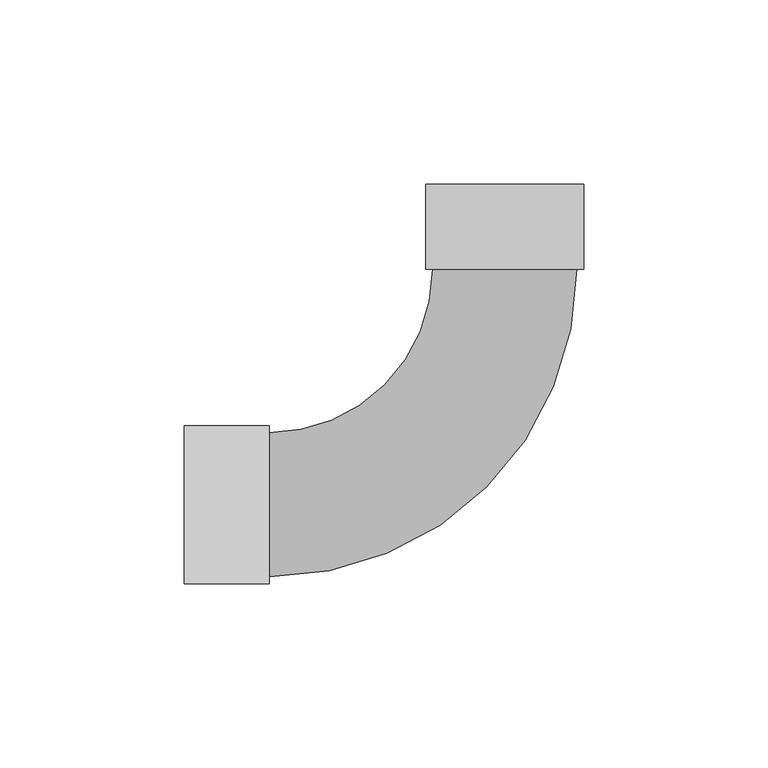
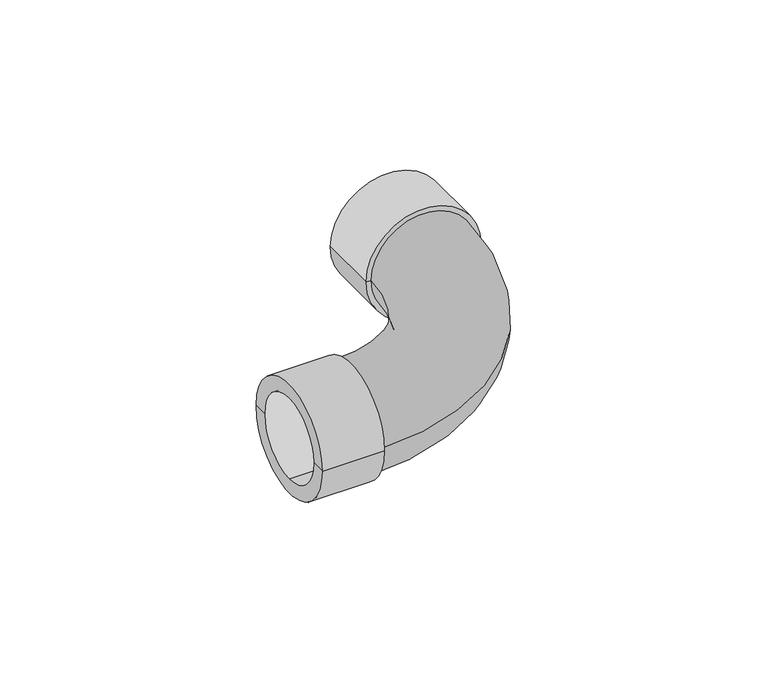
"""IFC4 building model written with IfcOpenShell, lengths in millimetres: pipe fitting geometry, PipeFitting_HTA_CPVC_Bends90° : 32mm x 90°."""

from ifc_helpers import new_model, si_unit, point, frame, origin, place, context, project, spatial, polyline, circle_curve, ellipse_curve, trimmed, source, transform, mapped, element, save
from ifc_brep_helpers import plane_surface, cylinder_surface, revolved_surface, advanced_brep


def pipe_fitting_430ba046(model_context):
    return source(origin(), model_context, "Body", "AdvancedBrep", [
        advanced_brep(
        [(-64.0, -19.6, 0.0), (19.6, 64.0, 0.0), (-19.6, 64.0, 0.0), (-64.0, 19.6, 0.0), (-64.0, 21.5, 0.0), (-64.0, -21.5, 0.0), (-87.1, -21.5, 0.0), (-87.1, 21.5, 0.0), (-87.1, -16.0, 0.0), (-87.1, 0.0, -16.0), (-87.1, 16.0, 0.0), (-87.1, 0.0, 16.0), (-21.5, 64.0, 0.0), (21.5, 64.0, 0.0), (21.5, 87.1, 0.0), (-21.5, 87.1, 0.0), (-16.0, 87.1, 0.0), (0.0, 87.1, -16.0), (16.0, 87.1, 0.0), (0.0, 87.1, 16.0), (0.0, 64.0, -16.0), (0.0, 64.0, 16.0), (-64.0, 0.0, -16.0), (-64.0, 0.0, 16.0)],
        [
            (0, 1, circle_curve(frame((-64.0, 64.0, 0.0), z_axis=(0.0, 0.0, 1.0), x_axis=(1.0, 0.0, 0.0)), 83.6)),
            (1, 2, circle_curve(frame((0.0, 64.0, 0.0), z_axis=(0.0, -1.0, 0.0), x_axis=(1.0, 0.0, 0.0)), 19.6)),
            (2, 3, circle_curve(frame((-64.0, 64.0, 0.0), z_axis=(0.0, 0.0, -1.0), x_axis=(1.0, 0.0, 0.0)), 44.4)),
            (3, 0, circle_curve(frame((-64.0, 0.0, 0.0), z_axis=(1.0, 0.0, 0.0), x_axis=(0.0, -1.0, 0.0)), 19.6)),
            (0, 3, circle_curve(frame((-64.0, 0.0, 0.0), z_axis=(1.0, 0.0, 0.0), x_axis=(0.0, -1.0, 0.0)), 19.6)),
            (2, 1, circle_curve(frame((0.0, 64.0, 0.0), z_axis=(0.0, -1.0, 0.0), x_axis=(1.0, 0.0, 0.0)), 19.6)),
            (4, 5, circle_curve(frame((-64.0, 0.0, 0.0), z_axis=(-1.0, 0.0, 0.0), x_axis=(0.0, -1.0, 0.0)), 21.5)),
            (5, 6),
            (6, 7, circle_curve(frame((-87.1, 0.0, 0.0), z_axis=(1.0, 0.0, 0.0), x_axis=(0.0, -1.0, 0.0)), 21.5)),
            (7, 4),
            (5, 4, circle_curve(frame((-64.0, 0.0, 0.0), z_axis=(-1.0, 0.0, 0.0), x_axis=(0.0, -1.0, 0.0)), 21.5)),
            (7, 6, circle_curve(frame((-87.1, 0.0, 0.0), z_axis=(1.0, 0.0, 0.0), x_axis=(0.0, -1.0, 0.0)), 21.5)),
            (4, 3),
            (0, 5),
            (6, 8),
            (8, 9, circle_curve(frame((-87.1, 0.0, 0.0), z_axis=(1.0, 0.0, 0.0), x_axis=(0.0, 0.0, 1.0)), 16.0)),
            (9, 10, circle_curve(frame((-87.1, 0.0, 0.0), z_axis=(1.0, 0.0, 0.0), x_axis=(0.0, 0.0, 1.0)), 16.0)),
            (10, 7),
            (10, 11, circle_curve(frame((-87.1, 0.0, 0.0), z_axis=(1.0, 0.0, 0.0), x_axis=(0.0, 0.0, 1.0)), 16.0)),
            (11, 8, circle_curve(frame((-87.1, 0.0, 0.0), z_axis=(1.0, 0.0, 0.0), x_axis=(0.0, 0.0, 1.0)), 16.0)),
            (12, 13, circle_curve(frame((0.0, 64.0, 0.0), z_axis=(0.0, -1.0, 0.0), x_axis=(-1.0, 0.0, 0.0)), 21.5)),
            (13, 1),
            (2, 12),
            (13, 12, circle_curve(frame((0.0, 64.0, 0.0), z_axis=(0.0, -1.0, 0.0), x_axis=(-1.0, 0.0, 0.0)), 21.5)),
            (14, 15, circle_curve(frame((0.0, 87.1, 0.0), z_axis=(0.0, 1.0, 0.0), x_axis=(-1.0, 0.0, 0.0)), 21.5)),
            (15, 16),
            (16, 17, circle_curve(frame((0.0, 87.1, 0.0), z_axis=(0.0, -1.0, 0.0), x_axis=(0.0, 0.0, 1.0)), 16.0)),
            (17, 18, circle_curve(frame((0.0, 87.1, 0.0), z_axis=(0.0, -1.0, 0.0), x_axis=(0.0, 0.0, 1.0)), 16.0)),
            (18, 14),
            (15, 14, circle_curve(frame((0.0, 87.1, 0.0), z_axis=(0.0, 1.0, 0.0), x_axis=(-1.0, 0.0, 0.0)), 21.5)),
            (18, 19, circle_curve(frame((0.0, 87.1, 0.0), z_axis=(0.0, -1.0, 0.0), x_axis=(0.0, 0.0, 1.0)), 16.0)),
            (19, 16, circle_curve(frame((0.0, 87.1, 0.0), z_axis=(0.0, -1.0, 0.0), x_axis=(0.0, 0.0, 1.0)), 16.0)),
            (12, 15),
            (14, 13),
            (20, 21, circle_curve(frame((0.0, 64.0, 0.0), z_axis=(0.0, 1.0, 0.0), x_axis=(0.0, 0.0, 1.0)), 16.0)),
            (21, 20, circle_curve(frame((0.0, 64.0, 0.0), z_axis=(0.0, 1.0, 0.0), x_axis=(0.0, 0.0, 1.0)), 16.0)),
            (21, 19),
            (17, 20),
            (22, 23, circle_curve(frame((-64.0, 0.0, 0.0), z_axis=(-1.0, 0.0, 0.0), x_axis=(0.0, 0.0, 1.0)), 16.0)),
            (23, 22, circle_curve(frame((-64.0, 0.0, 0.0), z_axis=(-1.0, 0.0, 0.0), x_axis=(0.0, 0.0, 1.0)), 16.0)),
            (23, 11),
            (9, 22),
        ],
        [
            revolved_surface(trimmed(ellipse_curve(frame((0.0, 64.0, 0.0), z_axis=(0.0, 1.0, 0.0), x_axis=(1.0, 0.0, 0.0)), 19.6, 19.6), [point((-19.6, 64.0, 0.0))], [point((19.6, 64.0, 0.0))], True, "CARTESIAN"), (-64.0, 64.0, 0.0), (0.0, 0.0, -1.0)),
            revolved_surface(trimmed(ellipse_curve(frame((0.0, 64.0, 0.0), z_axis=(0.0, 1.0, 0.0), x_axis=(1.0, 0.0, 0.0)), 19.6, 19.6), [point((19.6, 64.0, 0.0))], [point((-19.6, 64.0, 0.0))], True, "CARTESIAN"), (-64.0, 64.0, 0.0), (0.0, 0.0, -1.0)),
            cylinder_surface(frame((-64.0, 0.0, 0.0), z_axis=(1.0, 0.0, 0.0), x_axis=(0.0, -1.0, 0.0)), 21.5),
            plane_surface(frame((-64.0, 0.0, 0.0), z_axis=(1.0, 0.0, 0.0), x_axis=(0.0, -1.0, 0.0))),
            plane_surface(frame((-87.1, 0.0, 0.0), z_axis=(-1.0, 0.0, 0.0), x_axis=(0.0, -1.0, 0.0))),
            plane_surface(frame((0.0, 64.0, 0.0), z_axis=(0.0, -1.0, 0.0), x_axis=(-1.0, 0.0, 0.0))),
            plane_surface(frame((0.0, 87.1, 0.0), z_axis=(0.0, 1.0, 0.0), x_axis=(-1.0, 0.0, 0.0))),
            cylinder_surface(frame((0.0, 87.1, 0.0), z_axis=(0.0, -1.0, 0.0), x_axis=(-1.0, 0.0, 0.0)), 21.5),
            plane_surface(frame((0.0, 64.0, 16.0), z_axis=(0.0, 1.0, 0.0), x_axis=(-1.0, 0.0, 0.0))),
            revolved_surface(polyline([(0.0, 64.0, 16.0), (0.0, 87.1, 16.0)]), (0.0, 87.1, 0.0), (0.0, -1.0, 0.0)),
            plane_surface(frame((-64.0, 0.0, 16.0), z_axis=(-1.0, 0.0, 0.0), x_axis=(0.0, -1.0, 0.0))),
            revolved_surface(polyline([(-64.0, 0.0, 16.0), (-87.1, 0.0, 16.0)]), (-87.1, 0.0, 0.0), (1.0, 0.0, 0.0)),
        ],
        [
            (0, [[1, 2, 3, 4]]),
            (1, [[-1, 5, -3, 6]]),
            (2, [[7, 8, 9, 10]]),
            (2, [[-8, 11, -10, 12]]),
            (3, [[-7, 13, -5, 14]]),
            (3, [[-11, -14, -4, -13]]),
            (4, [[-9, 15, 16, 17, 18]]),
            (4, [[-12, -18, 19, 20, -15]]),
            (5, [[21, 22, -6, 23]]),
            (5, [[24, -23, -2, -22]]),
            (6, [[25, 26, 27, 28, 29]]),
            (6, [[30, -29, 31, 32, -26]]),
            (7, [[-21, 33, -25, 34]]),
            (7, [[-24, -34, -30, -33]]),
            (8, [[35, 36]]),
            (9, [[-36, 37, -31, -28, 38]]),
            (9, [[-35, -38, -27, -32, -37]]),
            (10, [[39, 40]]),
            (11, [[-40, 41, -19, -17, 42]]),
            (11, [[-39, -42, -16, -20, -41]]),
        ],
    ),
    ])


if __name__ == "__main__":
    model = new_model("IFC4")
    model_context = context("Model", 3, world=origin())
    ifc_project = project(units=[si_unit("LENGTHUNIT", "METRE", prefix="MILLI")], contexts=[model_context])
    site = spatial("IfcSite", under=ifc_project)
    building = spatial("IfcBuilding", under=site)
    placement = place(None, origin())
    pipe_fitting_shape = pipe_fitting_430ba046(model_context)
    element("IfcPipeFitting", 1, ObjectType="PipeFitting_HTA_CPVC_Bends90° : 32mm x 90°", at=placement, inside=building, context=model_context, shape_type="MappedRepresentation", body=[
        mapped(pipe_fitting_shape, transform((0.0, 0.0, 0.0), x_axis=(1.0, 0.0, 0.0), y_axis=(0.0, 1.0, 0.0), z_axis=(0.0, 0.0, 1.0))),
    ])
    save(model, "model.ifc")
